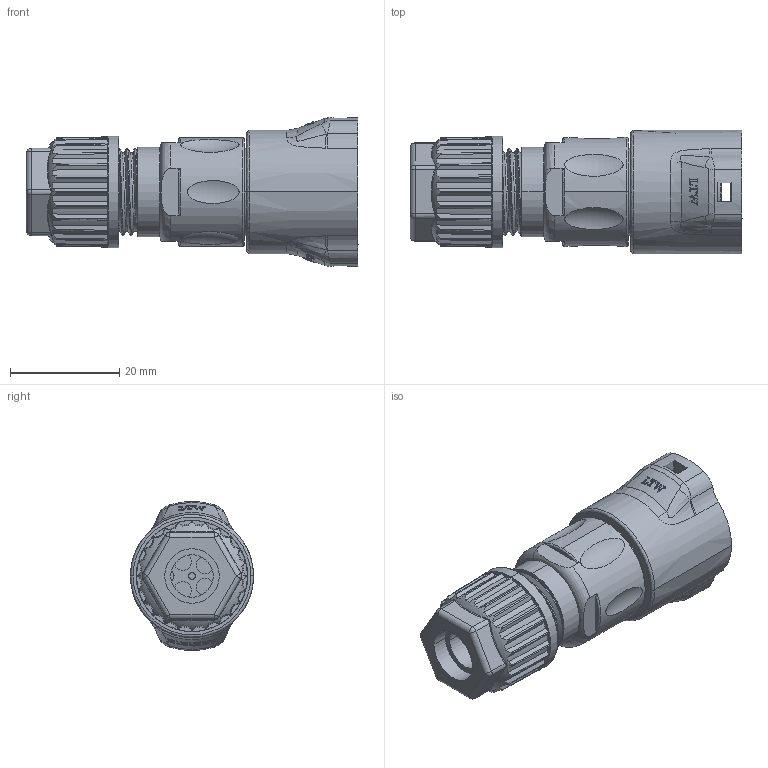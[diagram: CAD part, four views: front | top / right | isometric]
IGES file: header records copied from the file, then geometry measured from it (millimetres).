
Start section:  PTC IGES file: CD-02BFFC-RL7001.igs
Global section: file name: CD-02BFFC-RL7001.igs; native system: Creo Parametric by Parametric Technology Corporation; preprocessor: 2013050; author: KS7307; organization: Unknown; date: 20150828.174205; units: millimetre
Bounding box: 60.9 x 22.6 x 27.3 mm (x, y, z)
Volume: 12461.7 mm3; surface area: 11527.5 mm2
Topology: 1 solids, 4 shells, 1228 faces, 3419 edges, 2233 vertices
Faces by surface type: bspline 826, revolution 334, extrusion 68
